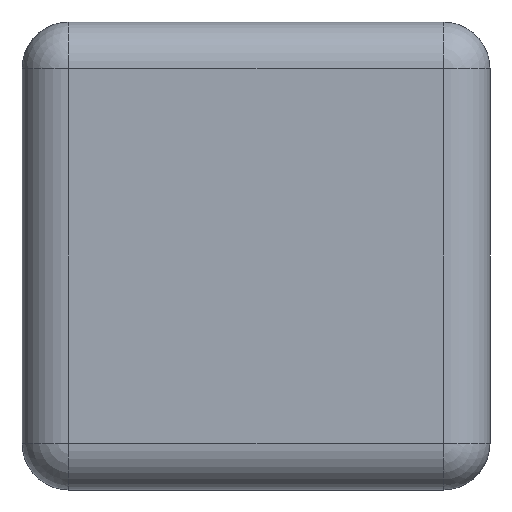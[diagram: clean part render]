
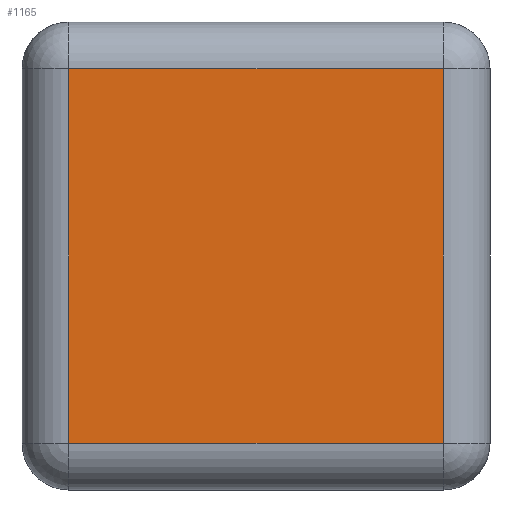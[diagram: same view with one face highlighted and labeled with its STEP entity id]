
A CAD part, left-side view. The second image highlights one B-rep face of the part: STEP entity #1165.
In plain terms, the highlighted planar face has unit normal (-1, 0, 0).
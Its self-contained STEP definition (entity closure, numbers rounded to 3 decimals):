
#186 = CYLINDRICAL_SURFACE('',#187,0.03);
#187 = AXIS2_PLACEMENT_3D('',#188,#189,#190);
#188 = CARTESIAN_POINT('',(-0.27,0.12,0.));
#189 = DIRECTION('',(0.,0.,1.));
#190 = DIRECTION('',(-0.,1.,0.));
#582 = VERTEX_POINT('',#583);
#583 = CARTESIAN_POINT('',(-0.3,0.12,0.03));
#603 = EDGE_CURVE('',#582,#604,#606,.T.);
#604 = VERTEX_POINT('',#605);
#605 = CARTESIAN_POINT('',(-0.3,0.12,0.27));
#606 = SURFACE_CURVE('',#607,(#611,#618),.PCURVE_S1.);
#607 = LINE('',#608,#609);
#608 = CARTESIAN_POINT('',(-0.3,0.12,0.));
#609 = VECTOR('',#610,1.);
#610 = DIRECTION('',(0.,0.,1.));
#611 = PCURVE('',#186,#612);
#612 = DEFINITIONAL_REPRESENTATION('',(#613),#617);
#613 = LINE('',#614,#615);
#614 = CARTESIAN_POINT('',(1.571,0.));
#615 = VECTOR('',#616,1.);
#616 = DIRECTION('',(0.,1.));
#617 = ( GEOMETRIC_REPRESENTATION_CONTEXT(2) 
PARAMETRIC_REPRESENTATION_CONTEXT() REPRESENTATION_CONTEXT('2D SPACE',''
  ) );
#618 = PCURVE('',#619,#624);
#619 = PLANE('',#620);
#620 = AXIS2_PLACEMENT_3D('',#621,#622,#623);
#621 = CARTESIAN_POINT('',(-0.3,-0.15,0.));
#622 = DIRECTION('',(-1.,0.,0.));
#623 = DIRECTION('',(0.,1.,0.));
#624 = DEFINITIONAL_REPRESENTATION('',(#625),#629);
#625 = LINE('',#626,#627);
#626 = CARTESIAN_POINT('',(0.27,0.));
#627 = VECTOR('',#628,1.);
#628 = DIRECTION('',(0.,-1.));
#629 = ( GEOMETRIC_REPRESENTATION_CONTEXT(2) 
PARAMETRIC_REPRESENTATION_CONTEXT() REPRESENTATION_CONTEXT('2D SPACE',''
  ) );
#1016 = CYLINDRICAL_SURFACE('',#1017,0.03);
#1017 = AXIS2_PLACEMENT_3D('',#1018,#1019,#1020);
#1018 = CARTESIAN_POINT('',(-0.27,-0.15,0.03));
#1019 = DIRECTION('',(0.,1.,0.));
#1020 = DIRECTION('',(-1.,0.,0.));
#1100 = CYLINDRICAL_SURFACE('',#1101,0.03);
#1101 = AXIS2_PLACEMENT_3D('',#1102,#1103,#1104);
#1102 = CARTESIAN_POINT('',(-0.27,-0.15,0.27));
#1103 = DIRECTION('',(0.,1.,0.));
#1104 = DIRECTION('',(-1.,0.,0.));
#1165 = ADVANCED_FACE('',(#1166),#619,.T.);
#1166 = FACE_BOUND('',#1167,.T.);
#1167 = EDGE_LOOP('',(#1168,#1198,#1219,#1220));
#1168 = ORIENTED_EDGE('',*,*,#1169,.T.);
#1169 = EDGE_CURVE('',#1170,#1172,#1174,.T.);
#1170 = VERTEX_POINT('',#1171);
#1171 = CARTESIAN_POINT('',(-0.3,-0.12,0.03));
#1172 = VERTEX_POINT('',#1173);
#1173 = CARTESIAN_POINT('',(-0.3,-0.12,0.27));
#1174 = SURFACE_CURVE('',#1175,(#1179,#1186),.PCURVE_S1.);
#1175 = LINE('',#1176,#1177);
#1176 = CARTESIAN_POINT('',(-0.3,-0.12,0.));
#1177 = VECTOR('',#1178,1.);
#1178 = DIRECTION('',(0.,0.,1.));
#1179 = PCURVE('',#619,#1180);
#1180 = DEFINITIONAL_REPRESENTATION('',(#1181),#1185);
#1181 = LINE('',#1182,#1183);
#1182 = CARTESIAN_POINT('',(0.03,0.));
#1183 = VECTOR('',#1184,1.);
#1184 = DIRECTION('',(0.,-1.));
#1185 = ( GEOMETRIC_REPRESENTATION_CONTEXT(2) 
PARAMETRIC_REPRESENTATION_CONTEXT() REPRESENTATION_CONTEXT('2D SPACE',''
  ) );
#1186 = PCURVE('',#1187,#1192);
#1187 = CYLINDRICAL_SURFACE('',#1188,0.03);
#1188 = AXIS2_PLACEMENT_3D('',#1189,#1190,#1191);
#1189 = CARTESIAN_POINT('',(-0.27,-0.12,0.));
#1190 = DIRECTION('',(0.,0.,1.));
#1191 = DIRECTION('',(-1.,0.,0.));
#1192 = DEFINITIONAL_REPRESENTATION('',(#1193),#1197);
#1193 = LINE('',#1194,#1195);
#1194 = CARTESIAN_POINT('',(0.,0.));
#1195 = VECTOR('',#1196,1.);
#1196 = DIRECTION('',(0.,1.));
#1197 = ( GEOMETRIC_REPRESENTATION_CONTEXT(2) 
PARAMETRIC_REPRESENTATION_CONTEXT() REPRESENTATION_CONTEXT('2D SPACE',''
  ) );
#1198 = ORIENTED_EDGE('',*,*,#1199,.T.);
#1199 = EDGE_CURVE('',#1172,#604,#1200,.T.);
#1200 = SURFACE_CURVE('',#1201,(#1205,#1212),.PCURVE_S1.);
#1201 = LINE('',#1202,#1203);
#1202 = CARTESIAN_POINT('',(-0.3,-0.15,0.27));
#1203 = VECTOR('',#1204,1.);
#1204 = DIRECTION('',(0.,1.,0.));
#1205 = PCURVE('',#619,#1206);
#1206 = DEFINITIONAL_REPRESENTATION('',(#1207),#1211);
#1207 = LINE('',#1208,#1209);
#1208 = CARTESIAN_POINT('',(0.,-0.27));
#1209 = VECTOR('',#1210,1.);
#1210 = DIRECTION('',(1.,0.));
#1211 = ( GEOMETRIC_REPRESENTATION_CONTEXT(2) 
PARAMETRIC_REPRESENTATION_CONTEXT() REPRESENTATION_CONTEXT('2D SPACE',''
  ) );
#1212 = PCURVE('',#1100,#1213);
#1213 = DEFINITIONAL_REPRESENTATION('',(#1214),#1218);
#1214 = LINE('',#1215,#1216);
#1215 = CARTESIAN_POINT('',(0.,0.));
#1216 = VECTOR('',#1217,1.);
#1217 = DIRECTION('',(0.,1.));
#1218 = ( GEOMETRIC_REPRESENTATION_CONTEXT(2) 
PARAMETRIC_REPRESENTATION_CONTEXT() REPRESENTATION_CONTEXT('2D SPACE',''
  ) );
#1219 = ORIENTED_EDGE('',*,*,#603,.F.);
#1220 = ORIENTED_EDGE('',*,*,#1221,.F.);
#1221 = EDGE_CURVE('',#1170,#582,#1222,.T.);
#1222 = SURFACE_CURVE('',#1223,(#1227,#1234),.PCURVE_S1.);
#1223 = LINE('',#1224,#1225);
#1224 = CARTESIAN_POINT('',(-0.3,-0.15,0.03));
#1225 = VECTOR('',#1226,1.);
#1226 = DIRECTION('',(0.,1.,0.));
#1227 = PCURVE('',#619,#1228);
#1228 = DEFINITIONAL_REPRESENTATION('',(#1229),#1233);
#1229 = LINE('',#1230,#1231);
#1230 = CARTESIAN_POINT('',(0.,-0.03));
#1231 = VECTOR('',#1232,1.);
#1232 = DIRECTION('',(1.,0.));
#1233 = ( GEOMETRIC_REPRESENTATION_CONTEXT(2) 
PARAMETRIC_REPRESENTATION_CONTEXT() REPRESENTATION_CONTEXT('2D SPACE',''
  ) );
#1234 = PCURVE('',#1016,#1235);
#1235 = DEFINITIONAL_REPRESENTATION('',(#1236),#1240);
#1236 = LINE('',#1237,#1238);
#1237 = CARTESIAN_POINT('',(-0.,0.));
#1238 = VECTOR('',#1239,1.);
#1239 = DIRECTION('',(-0.,1.));
#1240 = ( GEOMETRIC_REPRESENTATION_CONTEXT(2) 
PARAMETRIC_REPRESENTATION_CONTEXT() REPRESENTATION_CONTEXT('2D SPACE',''
  ) );
